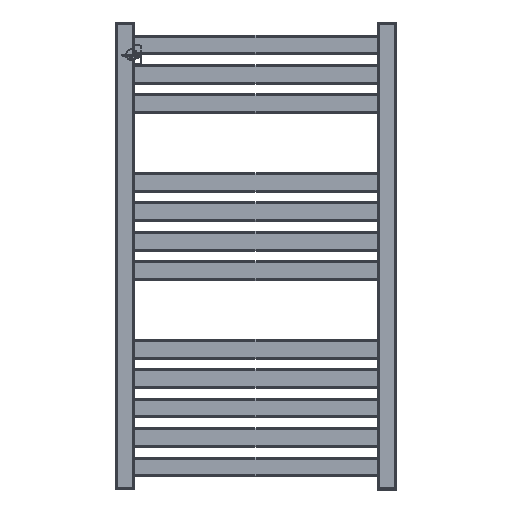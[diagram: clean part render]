
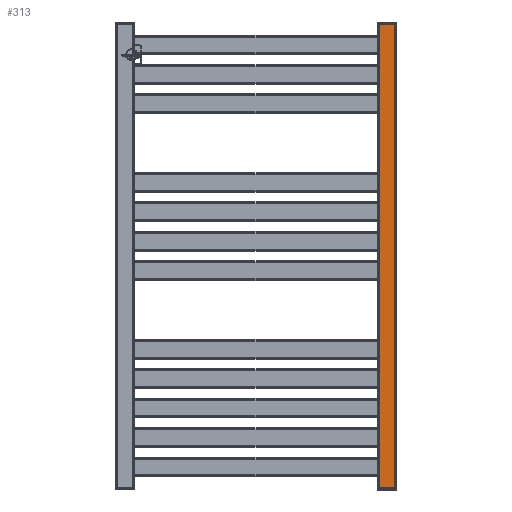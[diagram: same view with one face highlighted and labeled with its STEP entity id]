
A CAD part, front view. The second image highlights one B-rep face of the part: STEP entity #313.
In plain terms, the highlighted planar face has unit normal (0, -1, 0) as drawn and (-1, 0, 0) by its records, which use the part's own axes.
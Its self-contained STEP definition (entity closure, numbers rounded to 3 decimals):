
#313 = ADVANCED_FACE( '', ( #743 ), #744, .T. );
#743 = FACE_OUTER_BOUND( '', #1316, .T. );
#744 = PLANE( '', #1317 );
#1316 = EDGE_LOOP( '', ( #2246, #2247, #2248, #2249 ) );
#1317 = AXIS2_PLACEMENT_3D( '', #2250, #2251, #2252 );
#2246 = ORIENTED_EDGE( '', *, *, #3258, .T. );
#2247 = ORIENTED_EDGE( '', *, *, #3542, .T. );
#2248 = ORIENTED_EDGE( '', *, *, #3535, .F. );
#2249 = ORIENTED_EDGE( '', *, *, #3497, .T. );
#2250 = CARTESIAN_POINT( '', ( -15., 711., 15. ) );
#2251 = DIRECTION( '', ( -1., 0., 0. ) );
#2252 = DIRECTION( '', ( 0., 0., 1. ) );
#3258 = EDGE_CURVE( '', #3877, #3875, #3878, .T. );
#3497 = EDGE_CURVE( '', #4286, #3877, #4287, .F. );
#3535 = EDGE_CURVE( '', #4286, #4347, #4348, .T. );
#3542 = EDGE_CURVE( '', #3875, #4347, #4357, .T. );
#3875 = VERTEX_POINT( '', #4774 );
#3877 = VERTEX_POINT( '', #4776 );
#3878 = LINE( '', #4777, #4778 );
#4286 = VERTEX_POINT( '', #5310 );
#4287 = LINE( '', #5311, #5312 );
#4347 = VERTEX_POINT( '', #5391 );
#4348 = LINE( '', #5392, #5393 );
#4357 = LINE( '', #5404, #5405 );
#4774 = CARTESIAN_POINT( '', ( -15., 711., -12. ) );
#4776 = CARTESIAN_POINT( '', ( -15., 711., 12. ) );
#4777 = CARTESIAN_POINT( '', ( -15., 711., 15. ) );
#4778 = VECTOR( '', #5914, 1000. );
#5310 = CARTESIAN_POINT( '', ( -15., 0., 12. ) );
#5311 = CARTESIAN_POINT( '', ( -15., 711., 12. ) );
#5312 = VECTOR( '', #6273, 1000. );
#5391 = CARTESIAN_POINT( '', ( -15., 0., -12. ) );
#5392 = CARTESIAN_POINT( '', ( -15., 0., 15. ) );
#5393 = VECTOR( '', #6329, 1000. );
#5404 = CARTESIAN_POINT( '', ( -15., 711., -12. ) );
#5405 = VECTOR( '', #6338, 1000. );
#5914 = DIRECTION( '', ( 0., 0., -1. ) );
#6273 = DIRECTION( '', ( 0., -1., 0. ) );
#6329 = DIRECTION( '', ( 0., 0., -1. ) );
#6338 = DIRECTION( '', ( 0., -1., 0. ) );
